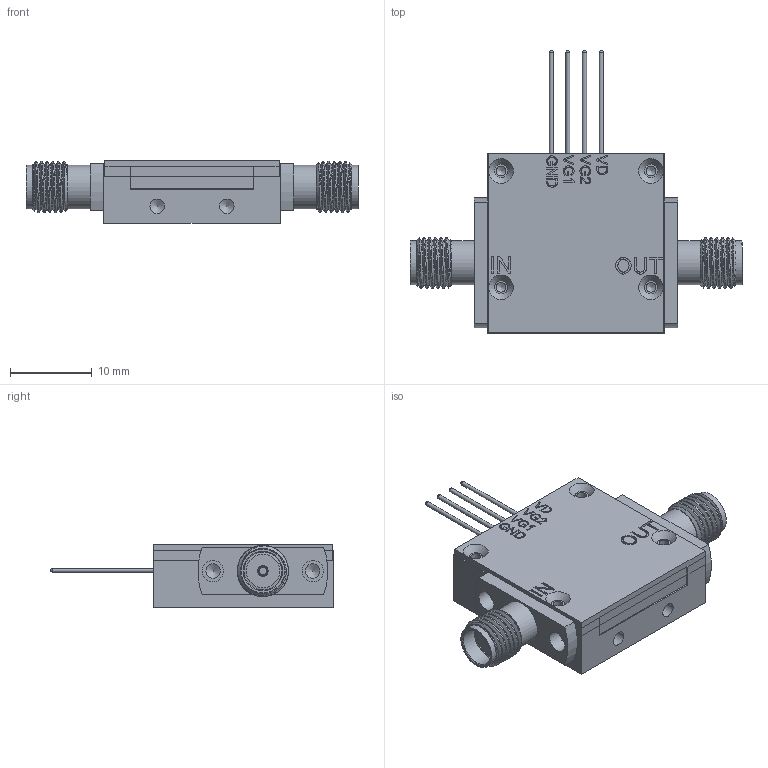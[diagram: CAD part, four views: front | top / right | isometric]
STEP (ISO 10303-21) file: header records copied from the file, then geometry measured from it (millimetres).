
FILE_DESCRIPTION(/* description */ ('STEP AP242','CAx-IF Rec.Pracs.---Representation and Presentation of Product Manufacturing Information (PMI)---4.0---2014-10-13','CAx-IF Rec.Pracs.---3D Tessellated Geometry---0.4---2014-09-14','2;1'),/* implementation_level */ '2;1');
FILE_NAME(/* name */ '620ed277f2acff008ca207d9',/* time_stamp */ '2022-02-17T22:55:52+00:00',/* author */ (''),/* organization */ (''),/* preprocessor_version */ 'ST-DEVELOPER v18.101',/* originating_system */ ' ',/* authorisation */ ' ');
FILE_SCHEMA (('AP242_MANAGED_MODEL_BASED_3D_ENGINEERING_MIM_LF { 1 0 10303 442 1 1 4 }'));
Length unit declared in the file: metre
Products named in the file (15): CITCRYO; X-Band Lid; SMA Conn; X-Band Sub Lid; X Band Chassis; 4 Pin DC Connector <1>; Part 8; Part 4; Part 2; Part 7; Part 9; Part 6; Body; Part 3; Part 5
Assembly tree (15 placements, depth 3):
  CITCRYO
    X-Band Lid
    SMA Conn  x2
    X-Band Sub Lid
    X Band Chassis
    4 Pin DC Connector <1>
      Part 8
      Part 4
      Part 2
      Part 7
      Part 9
      Part 6
      Body
      Part 3
      Part 5
Bounding box: 40.54 x 34.5 x 7.69 mm (x, y, z)
Volume: 4205.7 mm3; surface area: 5054.5 mm2
Topology: 14 solids, 14 shells, 452 faces, 1227 edges, 833 vertices
Faces by surface type: plane 237, cylinder 87, bspline 84, cone 32, sphere 8, torus 4
Full cylindrical faces by diameter (mm): 0.25 x2, 0.508 x12, 1.181 x4, 1.191 x4, 1.321 x2, 1.53 x2, 1.613 x4, 1.63 x4, 1.75 x2, 1.778 x2, 2.05 x2, 2.13 x2, 2.2 x2, 2.59 x4, 4.102 x2, 4.623 x2, 5.334 x4
Entity records: 16206 total; most frequent: CARTESIAN_POINT 6434, ORIENTED_EDGE 1954, DIRECTION 1673, EDGE_CURVE 977, VERTEX_POINT 703, LINE 609, VECTOR 609, FACE_BOUND 568
